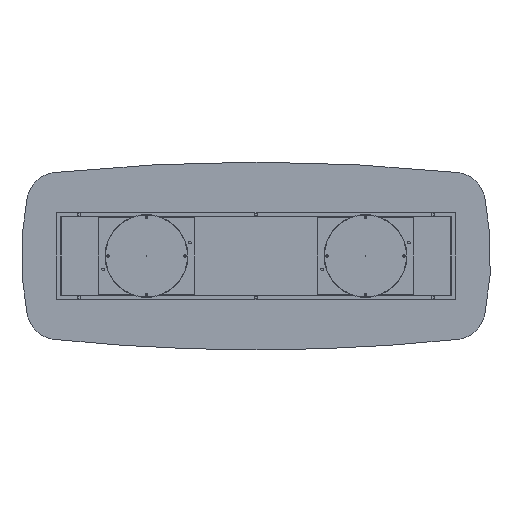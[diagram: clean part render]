
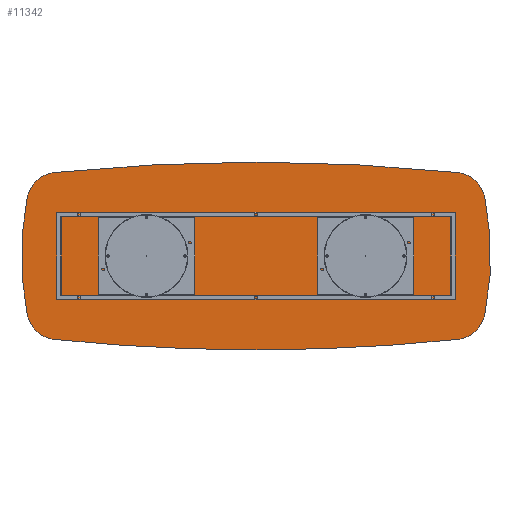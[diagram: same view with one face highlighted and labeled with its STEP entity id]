
A CAD part, front view. The second image highlights one B-rep face of the part: STEP entity #11342.
In plain terms, the highlighted planar face has unit normal (0, -1, 0).
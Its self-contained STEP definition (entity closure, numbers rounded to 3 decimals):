
#245 = DIRECTION ( 'NONE',  ( 0., 0., 1. ) ) ;
#546 = VERTEX_POINT ( 'NONE', #10215 ) ;
#658 = DIRECTION ( 'NONE',  ( 0., 0., 1. ) ) ;
#869 = CARTESIAN_POINT ( 'NONE',  ( 400., 0., 0. ) ) ;
#993 = CIRCLE ( 'NONE', #9586, 1900. ) ;
#995 = CARTESIAN_POINT ( 'NONE',  ( -1462.835, 0., 373.961 ) ) ;
#1206 = VERTEX_POINT ( 'NONE', #6616 ) ;
#1215 = EDGE_CURVE ( 'NONE', #546, #1667, #4599, .T. ) ;
#1368 = EDGE_LOOP ( 'NONE', ( #10627, #2406, #8376, #7581, #8470, #8378, #6664, #13630, #6335 ) ) ;
#1504 = CARTESIAN_POINT ( 'NONE',  ( 1287.344, 0., 533.533 ) ) ;
#1568 = CIRCLE ( 'NONE', #6658, 1900. ) ;
#1667 = VERTEX_POINT ( 'NONE', #995 ) ;
#2317 = EDGE_CURVE ( 'NONE', #11103, #4691, #3748, .T. ) ;
#2395 = DIRECTION ( 'NONE',  ( 0., -1., 0. ) ) ;
#2406 = ORIENTED_EDGE ( 'NONE', *, *, #1215, .T. ) ;
#2611 = DIRECTION ( 'NONE',  ( 0., 0., 1. ) ) ;
#2761 = DIRECTION ( 'NONE',  ( 0., 0., 1. ) ) ;
#2773 = AXIS2_PLACEMENT_3D ( 'NONE', #7025, #3622, #658 ) ;
#2815 = DIRECTION ( 'NONE',  ( 0., -1., 0. ) ) ;
#2874 = DIRECTION ( 'NONE',  ( 0., 0., 1. ) ) ;
#2907 = CARTESIAN_POINT ( 'NONE',  ( -400., 0., 0. ) ) ;
#3622 = DIRECTION ( 'NONE',  ( 0., -1., 0. ) ) ;
#3740 = CARTESIAN_POINT ( 'NONE',  ( 0., 0., 11900. ) ) ;
#3748 = CIRCLE ( 'NONE', #7738, 200. ) ;
#3788 = EDGE_CURVE ( 'NONE', #6011, #1206, #1568, .T. ) ;
#4108 = FACE_OUTER_BOUND ( 'NONE', #1368, .T. ) ;
#4265 = DIRECTION ( 'NONE',  ( 0., 0., 1. ) ) ;
#4400 = EDGE_CURVE ( 'NONE', #546, #7165, #9072, .T. ) ;
#4599 = CIRCLE ( 'NONE', #12319, 200. ) ;
#4691 = VERTEX_POINT ( 'NONE', #6108 ) ;
#5789 = EDGE_CURVE ( 'NONE', #5914, #1206, #13577, .T. ) ;
#5839 = DIRECTION ( 'NONE',  ( 0., 0., 1. ) ) ;
#5914 = VERTEX_POINT ( 'NONE', #11365 ) ;
#6011 = VERTEX_POINT ( 'NONE', #8678 ) ;
#6108 = CARTESIAN_POINT ( 'NONE',  ( -1287.344, 0., -533.533 ) ) ;
#6181 = DIRECTION ( 'NONE',  ( 0., 0., 1. ) ) ;
#6249 = DIRECTION ( 'NONE',  ( 0., -1., 0. ) ) ;
#6268 = DIRECTION ( 'NONE',  ( 0., 0., 1. ) ) ;
#6292 = EDGE_CURVE ( 'NONE', #6011, #7165, #12278, .T. ) ;
#6335 = ORIENTED_EDGE ( 'NONE', *, *, #6292, .T. ) ;
#6413 = CARTESIAN_POINT ( 'NONE',  ( 0., 0., -600. ) ) ;
#6616 = CARTESIAN_POINT ( 'NONE',  ( 1462.835, 0., -373.961 ) ) ;
#6658 = AXIS2_PLACEMENT_3D ( 'NONE', #2907, #11127, #2761 ) ;
#6664 = ORIENTED_EDGE ( 'NONE', *, *, #5789, .T. ) ;
#6703 = CARTESIAN_POINT ( 'NONE',  ( -1462.835, 0., -373.961 ) ) ;
#7016 = DIRECTION ( 'NONE',  ( 0., 1., 0. ) ) ;
#7025 = CARTESIAN_POINT ( 'NONE',  ( 1266.747, 0., -334.597 ) ) ;
#7165 = VERTEX_POINT ( 'NONE', #1504 ) ;
#7213 = AXIS2_PLACEMENT_3D ( 'NONE', #13622, #6249, #6181 ) ;
#7581 = ORIENTED_EDGE ( 'NONE', *, *, #2317, .T. ) ;
#7582 = DIRECTION ( 'NONE',  ( 0., 1., 0. ) ) ;
#7592 = CARTESIAN_POINT ( 'NONE',  ( -1266.747, 0., 334.597 ) ) ;
#7738 = AXIS2_PLACEMENT_3D ( 'NONE', #12079, #2815, #2611 ) ;
#7843 = CARTESIAN_POINT ( 'NONE',  ( 0., 0., 11900. ) ) ;
#7903 = AXIS2_PLACEMENT_3D ( 'NONE', #7843, #7016, #5839 ) ;
#7965 = DIRECTION ( 'NONE',  ( 0., 0., 1. ) ) ;
#8189 = AXIS2_PLACEMENT_3D ( 'NONE', #11845, #7582, #245 ) ;
#8348 = AXIS2_PLACEMENT_3D ( 'NONE', #3740, #8934, #7965 ) ;
#8376 = ORIENTED_EDGE ( 'NONE', *, *, #9066, .F. ) ;
#8378 = ORIENTED_EDGE ( 'NONE', *, *, #11613, .F. ) ;
#8414 = PLANE ( 'NONE',  #12075 ) ;
#8470 = ORIENTED_EDGE ( 'NONE', *, *, #12091, .F. ) ;
#8678 = CARTESIAN_POINT ( 'NONE',  ( 1462.835, 0., 373.961 ) ) ;
#8934 = DIRECTION ( 'NONE',  ( 0., 1., 0. ) ) ;
#9066 = EDGE_CURVE ( 'NONE', #11103, #1667, #993, .T. ) ;
#9072 = CIRCLE ( 'NONE', #8189, 12500. ) ;
#9202 = VERTEX_POINT ( 'NONE', #6413 ) ;
#9586 = AXIS2_PLACEMENT_3D ( 'NONE', #869, #12269, #2874 ) ;
#10098 = CIRCLE ( 'NONE', #8348, 12500. ) ;
#10215 = CARTESIAN_POINT ( 'NONE',  ( -1287.344, 0., 533.533 ) ) ;
#10315 = CIRCLE ( 'NONE', #7903, 12500. ) ;
#10627 = ORIENTED_EDGE ( 'NONE', *, *, #4400, .F. ) ;
#11103 = VERTEX_POINT ( 'NONE', #6703 ) ;
#11127 = DIRECTION ( 'NONE',  ( 0., 1., 0. ) ) ;
#11342 = ADVANCED_FACE ( 'NONE', ( #4108 ), #8414, .F. ) ;
#11365 = CARTESIAN_POINT ( 'NONE',  ( 1287.344, 0., -533.533 ) ) ;
#11512 = DIRECTION ( 'NONE',  ( 0., 1., 0. ) ) ;
#11613 = EDGE_CURVE ( 'NONE', #5914, #9202, #10315, .T. ) ;
#11845 = CARTESIAN_POINT ( 'NONE',  ( 0., 0., -11900. ) ) ;
#12075 = AXIS2_PLACEMENT_3D ( 'NONE', #12550, #11512, #6268 ) ;
#12079 = CARTESIAN_POINT ( 'NONE',  ( -1266.747, 0., -334.597 ) ) ;
#12091 = EDGE_CURVE ( 'NONE', #9202, #4691, #10098, .T. ) ;
#12269 = DIRECTION ( 'NONE',  ( 0., 1., 0. ) ) ;
#12278 = CIRCLE ( 'NONE', #7213, 200. ) ;
#12319 = AXIS2_PLACEMENT_3D ( 'NONE', #7592, #2395, #4265 ) ;
#12550 = CARTESIAN_POINT ( 'NONE',  ( -200., 0., 5950. ) ) ;
#13577 = CIRCLE ( 'NONE', #2773, 200. ) ;
#13622 = CARTESIAN_POINT ( 'NONE',  ( 1266.747, 0., 334.597 ) ) ;
#13630 = ORIENTED_EDGE ( 'NONE', *, *, #3788, .F. ) ;
